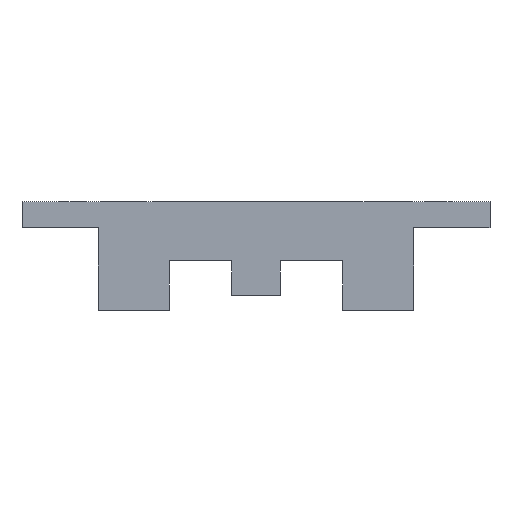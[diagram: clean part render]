
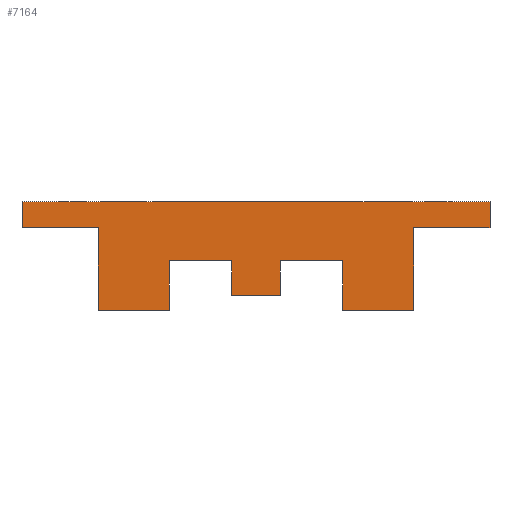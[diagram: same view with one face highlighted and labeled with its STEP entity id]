
A CAD part, left-side view. The second image highlights one B-rep face of the part: STEP entity #7164.
In plain terms, the highlighted planar face has unit normal (-1, 0, 0).
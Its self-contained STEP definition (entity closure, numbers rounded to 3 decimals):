
#21 = ORIENTED_EDGE ( 'NONE', *, *, #8731, .F. ) ;
#30 = VECTOR ( 'NONE', #1372, 1000. ) ;
#120 = LINE ( 'NONE', #9778, #10124 ) ;
#160 = ORIENTED_EDGE ( 'NONE', *, *, #3147, .F. ) ;
#188 = PLANE ( 'NONE',  #11092 ) ;
#210 = CARTESIAN_POINT ( 'NONE',  ( -56.1, 14., 0. ) ) ;
#264 = VERTEX_POINT ( 'NONE', #3748 ) ;
#286 = ORIENTED_EDGE ( 'NONE', *, *, #5688, .T. ) ;
#417 = VERTEX_POINT ( 'NONE', #7739 ) ;
#622 = DIRECTION ( 'NONE',  ( 0., 0., -1. ) ) ;
#644 = VERTEX_POINT ( 'NONE', #1820 ) ;
#668 = VERTEX_POINT ( 'NONE', #11177 ) ;
#794 = CARTESIAN_POINT ( 'NONE',  ( -56.1, 14., 8.5 ) ) ;
#799 = VECTOR ( 'NONE', #2287, 1000. ) ;
#895 = CARTESIAN_POINT ( 'NONE',  ( -56.1, 134.8, 0. ) ) ;
#939 = VECTOR ( 'NONE', #4336, 1000. ) ;
#975 = ORIENTED_EDGE ( 'NONE', *, *, #2784, .F. ) ;
#1062 = LINE ( 'NONE', #210, #3076 ) ;
#1123 = ORIENTED_EDGE ( 'NONE', *, *, #2650, .F. ) ;
#1153 = ORIENTED_EDGE ( 'NONE', *, *, #1980, .F. ) ;
#1160 = CARTESIAN_POINT ( 'NONE',  ( -56.1, 14., 28.5 ) ) ;
#1162 = EDGE_CURVE ( 'NONE', #668, #8860, #6094, .T. ) ;
#1372 = DIRECTION ( 'NONE',  ( 0., -1., 0. ) ) ;
#1487 = VECTOR ( 'NONE', #4922, 1000. ) ;
#1489 = DIRECTION ( 'NONE',  ( 0., 1., 0. ) ) ;
#1524 = EDGE_CURVE ( 'NONE', #8966, #8585, #10515, .T. ) ;
#1676 = DIRECTION ( 'NONE',  ( 0., 1., 0. ) ) ;
#1744 = CARTESIAN_POINT ( 'NONE',  ( -56.1, 90.8, 0. ) ) ;
#1769 = EDGE_CURVE ( 'NONE', #4702, #417, #3097, .T. ) ;
#1820 = CARTESIAN_POINT ( 'NONE',  ( -56.1, 134.8, 62.5 ) ) ;
#1980 = EDGE_CURVE ( 'NONE', #4880, #4702, #3370, .T. ) ;
#2174 = EDGE_LOOP ( 'NONE', ( #9389, #1153, #286, #8848, #11016, #1123, #4414, #7966, #160, #4832, #8833, #975, #5111, #21, #8409, #8655 ) ) ;
#2287 = DIRECTION ( 'NONE',  ( 0., 0., -1. ) ) ;
#2371 = VECTOR ( 'NONE', #1676, 1000. ) ;
#2486 = LINE ( 'NONE', #4012, #1487 ) ;
#2533 = CARTESIAN_POINT ( 'NONE',  ( -56.1, 50., 0. ) ) ;
#2594 = LINE ( 'NONE', #10488, #30 ) ;
#2646 = DIRECTION ( 'NONE',  ( 0., -1., 0. ) ) ;
#2650 = EDGE_CURVE ( 'NONE', #6439, #7175, #1062, .T. ) ;
#2749 = CARTESIAN_POINT ( 'NONE',  ( -56.1, -50., 28.5 ) ) ;
#2784 = EDGE_CURVE ( 'NONE', #4300, #5075, #2486, .T. ) ;
#2996 = DIRECTION ( 'NONE',  ( 0., 0., -1. ) ) ;
#3076 = VECTOR ( 'NONE', #6562, 1000. ) ;
#3097 = LINE ( 'NONE', #5764, #4948 ) ;
#3116 = VERTEX_POINT ( 'NONE', #4485 ) ;
#3147 = EDGE_CURVE ( 'NONE', #8585, #264, #9328, .T. ) ;
#3183 = VECTOR ( 'NONE', #11392, 1000. ) ;
#3204 = CARTESIAN_POINT ( 'NONE',  ( -56.1, 50., 0. ) ) ;
#3219 = EDGE_CURVE ( 'NONE', #264, #4532, #7478, .T. ) ;
#3270 = FACE_OUTER_BOUND ( 'NONE', #2174, .T. ) ;
#3303 = DIRECTION ( 'NONE',  ( 0., 0., -1. ) ) ;
#3370 = LINE ( 'NONE', #5115, #939 ) ;
#3528 = EDGE_CURVE ( 'NONE', #7175, #668, #7750, .T. ) ;
#3748 = CARTESIAN_POINT ( 'NONE',  ( -56.1, -14., 28.5 ) ) ;
#3762 = LINE ( 'NONE', #6691, #3183 ) ;
#3849 = CARTESIAN_POINT ( 'NONE',  ( -56.1, -134.8, 62.5 ) ) ;
#3913 = EDGE_CURVE ( 'NONE', #644, #7682, #3762, .T. ) ;
#4012 = CARTESIAN_POINT ( 'NONE',  ( -56.1, -90.8, 0. ) ) ;
#4047 = EDGE_CURVE ( 'NONE', #644, #417, #10896, .T. ) ;
#4300 = VERTEX_POINT ( 'NONE', #9518 ) ;
#4336 = DIRECTION ( 'NONE',  ( 0., 0., 1. ) ) ;
#4396 = CARTESIAN_POINT ( 'NONE',  ( -56.1, -50., 0. ) ) ;
#4414 = ORIENTED_EDGE ( 'NONE', *, *, #11634, .F. ) ;
#4485 = CARTESIAN_POINT ( 'NONE',  ( -56.1, -134.8, 47.5 ) ) ;
#4532 = VERTEX_POINT ( 'NONE', #5901 ) ;
#4658 = LINE ( 'NONE', #8898, #2371 ) ;
#4702 = VERTEX_POINT ( 'NONE', #10645 ) ;
#4832 = ORIENTED_EDGE ( 'NONE', *, *, #1524, .F. ) ;
#4880 = VERTEX_POINT ( 'NONE', #1744 ) ;
#4922 = DIRECTION ( 'NONE',  ( 0., 0., -1. ) ) ;
#4948 = VECTOR ( 'NONE', #9425, 1000. ) ;
#5075 = VERTEX_POINT ( 'NONE', #9381 ) ;
#5111 = ORIENTED_EDGE ( 'NONE', *, *, #9031, .F. ) ;
#5115 = CARTESIAN_POINT ( 'NONE',  ( -56.1, 90.8, 0. ) ) ;
#5216 = CARTESIAN_POINT ( 'NONE',  ( -56.1, 134.8, 62.5 ) ) ;
#5348 = VECTOR ( 'NONE', #8089, 1000. ) ;
#5445 = CARTESIAN_POINT ( 'NONE',  ( -56.1, 0., 28.5 ) ) ;
#5498 = DIRECTION ( 'NONE',  ( 1., 0., 0. ) ) ;
#5604 = CARTESIAN_POINT ( 'NONE',  ( -56.1, -14., 0. ) ) ;
#5656 = VECTOR ( 'NONE', #11470, 1000. ) ;
#5688 = EDGE_CURVE ( 'NONE', #4880, #8860, #2594, .T. ) ;
#5764 = CARTESIAN_POINT ( 'NONE',  ( -56.1, 0., 47.5 ) ) ;
#5901 = CARTESIAN_POINT ( 'NONE',  ( -56.1, -14., 8.5 ) ) ;
#6094 = LINE ( 'NONE', #2533, #8226 ) ;
#6122 = CARTESIAN_POINT ( 'NONE',  ( -56.1, -50., 0. ) ) ;
#6439 = VERTEX_POINT ( 'NONE', #794 ) ;
#6562 = DIRECTION ( 'NONE',  ( 0., 0., 1. ) ) ;
#6691 = CARTESIAN_POINT ( 'NONE',  ( -56.1, 134.8, 62.5 ) ) ;
#6749 = VECTOR ( 'NONE', #3303, 1000. ) ;
#6809 = LINE ( 'NONE', #3849, #799 ) ;
#6986 = VECTOR ( 'NONE', #2646, 1000. ) ;
#7164 = ADVANCED_FACE ( 'NONE', ( #3270 ), #188, .F. ) ;
#7175 = VERTEX_POINT ( 'NONE', #1160 ) ;
#7335 = VECTOR ( 'NONE', #2996, 1000. ) ;
#7478 = LINE ( 'NONE', #5604, #7335 ) ;
#7682 = VERTEX_POINT ( 'NONE', #11459 ) ;
#7739 = CARTESIAN_POINT ( 'NONE',  ( -56.1, 134.8, 47.5 ) ) ;
#7750 = LINE ( 'NONE', #7768, #11332 ) ;
#7768 = CARTESIAN_POINT ( 'NONE',  ( -56.1, 0., 28.5 ) ) ;
#7966 = ORIENTED_EDGE ( 'NONE', *, *, #3219, .F. ) ;
#8089 = DIRECTION ( 'NONE',  ( 0., 1., 0. ) ) ;
#8226 = VECTOR ( 'NONE', #622, 1000. ) ;
#8409 = ORIENTED_EDGE ( 'NONE', *, *, #3913, .F. ) ;
#8585 = VERTEX_POINT ( 'NONE', #2749 ) ;
#8655 = ORIENTED_EDGE ( 'NONE', *, *, #4047, .T. ) ;
#8731 = EDGE_CURVE ( 'NONE', #7682, #3116, #6809, .T. ) ;
#8833 = ORIENTED_EDGE ( 'NONE', *, *, #11787, .T. ) ;
#8848 = ORIENTED_EDGE ( 'NONE', *, *, #1162, .F. ) ;
#8860 = VERTEX_POINT ( 'NONE', #3204 ) ;
#8898 = CARTESIAN_POINT ( 'NONE',  ( -56.1, 0., 47.5 ) ) ;
#8966 = VERTEX_POINT ( 'NONE', #4396 ) ;
#9031 = EDGE_CURVE ( 'NONE', #3116, #4300, #4658, .T. ) ;
#9328 = LINE ( 'NONE', #5445, #5348 ) ;
#9381 = CARTESIAN_POINT ( 'NONE',  ( -56.1, -90.8, 0. ) ) ;
#9389 = ORIENTED_EDGE ( 'NONE', *, *, #1769, .F. ) ;
#9425 = DIRECTION ( 'NONE',  ( 0., 1., 0. ) ) ;
#9518 = CARTESIAN_POINT ( 'NONE',  ( -56.1, -90.8, 47.5 ) ) ;
#9535 = LINE ( 'NONE', #895, #6986 ) ;
#9618 = DIRECTION ( 'NONE',  ( 0., 1., 0. ) ) ;
#9778 = CARTESIAN_POINT ( 'NONE',  ( -56.1, 0., 8.5 ) ) ;
#10124 = VECTOR ( 'NONE', #1489, 1000. ) ;
#10488 = CARTESIAN_POINT ( 'NONE',  ( -56.1, 134.8, 0. ) ) ;
#10515 = LINE ( 'NONE', #6122, #5656 ) ;
#10645 = CARTESIAN_POINT ( 'NONE',  ( -56.1, 90.8, 47.5 ) ) ;
#10896 = LINE ( 'NONE', #5216, #6749 ) ;
#11016 = ORIENTED_EDGE ( 'NONE', *, *, #3528, .F. ) ;
#11023 = CARTESIAN_POINT ( 'NONE',  ( -56.1, 134.8, 62.5 ) ) ;
#11092 = AXIS2_PLACEMENT_3D ( 'NONE', #11023, #5498, #9618 ) ;
#11177 = CARTESIAN_POINT ( 'NONE',  ( -56.1, 50., 28.5 ) ) ;
#11332 = VECTOR ( 'NONE', #11676, 1000. ) ;
#11392 = DIRECTION ( 'NONE',  ( 0., -1., 0. ) ) ;
#11459 = CARTESIAN_POINT ( 'NONE',  ( -56.1, -134.8, 62.5 ) ) ;
#11470 = DIRECTION ( 'NONE',  ( 0., 0., 1. ) ) ;
#11634 = EDGE_CURVE ( 'NONE', #4532, #6439, #120, .T. ) ;
#11676 = DIRECTION ( 'NONE',  ( 0., 1., 0. ) ) ;
#11787 = EDGE_CURVE ( 'NONE', #8966, #5075, #9535, .T. ) ;
